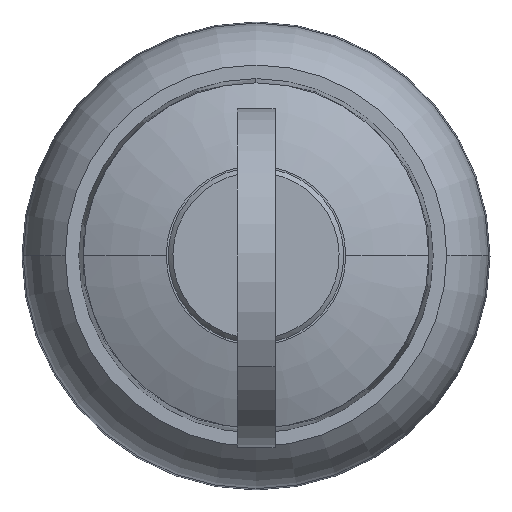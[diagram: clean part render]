
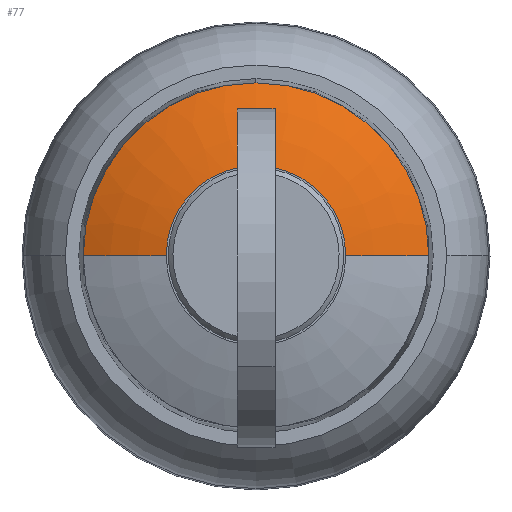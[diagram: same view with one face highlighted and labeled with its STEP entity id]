
A CAD part, top view. The second image highlights one B-rep face of the part: STEP entity #77.
In plain terms, the highlighted toroidal (fillet/blend) face has major radius 0.228 mm and minor radius 25 mm.
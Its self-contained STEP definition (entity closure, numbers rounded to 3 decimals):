
#77 = ADVANCED_FACE( '', ( #155 ), #156, .T. );
#155 = FACE_OUTER_BOUND( '', #316, .T. );
#156 = TOROIDAL_SURFACE( '', #317, 0.227, 25. );
#316 = EDGE_LOOP( '', ( #488, #489, #490, #491, #492, #493 ) );
#317 = AXIS2_PLACEMENT_3D( '', #494, #495, #496 );
#488 = ORIENTED_EDGE( '', *, *, #1074, .F. );
#489 = ORIENTED_EDGE( '', *, *, #1075, .T. );
#490 = ORIENTED_EDGE( '', *, *, #1076, .T. );
#491 = ORIENTED_EDGE( '', *, *, #1077, .F. );
#492 = ORIENTED_EDGE( '', *, *, #1078, .F. );
#493 = ORIENTED_EDGE( '', *, *, #1079, .F. );
#494 = CARTESIAN_POINT( '', ( 0., 0., 14.798 ) );
#495 = DIRECTION( '', ( 0., 0., 1. ) );
#496 = DIRECTION( '', ( 1., 0., 0. ) );
#1074 = EDGE_CURVE( '', #1265, #1266, #1267, .T. );
#1075 = EDGE_CURVE( '', #1265, #1268, #1269, .T. );
#1076 = EDGE_CURVE( '', #1268, #1270, #1271, .T. );
#1077 = EDGE_CURVE( '', #1272, #1270, #1273, .T. );
#1078 = EDGE_CURVE( '', #1274, #1272, #1275, .T. );
#1079 = EDGE_CURVE( '', #1266, #1274, #1276, .T. );
#1265 = VERTEX_POINT( '', #1573 );
#1266 = VERTEX_POINT( '', #1574 );
#1267 = CIRCLE( '', #1575, 25. );
#1268 = VERTEX_POINT( '', #1576 );
#1269 = CIRCLE( '', #1577, 10.962 );
#1270 = VERTEX_POINT( '', #1578 );
#1271 = CIRCLE( '', #1579, 10.962 );
#1272 = VERTEX_POINT( '', #1580 );
#1273 = CIRCLE( '', #1581, 25. );
#1274 = VERTEX_POINT( '', #1582 );
#1275 = CIRCLE( '', #1583, 5.7 );
#1276 = CIRCLE( '', #1584, 5.7 );
#1573 = CARTESIAN_POINT( '', ( 10.962, 0., 37.376 ) );
#1574 = CARTESIAN_POINT( '', ( 5.7, 0., 39.192 ) );
#1575 = AXIS2_PLACEMENT_3D( '', #2027, #2028, #2029 );
#1576 = CARTESIAN_POINT( '', ( 0., 10.962, 37.376 ) );
#1577 = AXIS2_PLACEMENT_3D( '', #2030, #2031, #2032 );
#1578 = CARTESIAN_POINT( '', ( -10.962, 0., 37.376 ) );
#1579 = AXIS2_PLACEMENT_3D( '', #2033, #2034, #2035 );
#1580 = CARTESIAN_POINT( '', ( -5.7, 0., 39.192 ) );
#1581 = AXIS2_PLACEMENT_3D( '', #2036, #2037, #2038 );
#1582 = CARTESIAN_POINT( '', ( 0., 5.7, 39.192 ) );
#1583 = AXIS2_PLACEMENT_3D( '', #2039, #2040, #2041 );
#1584 = AXIS2_PLACEMENT_3D( '', #2042, #2043, #2044 );
#2027 = CARTESIAN_POINT( '', ( 0.227, 0., 14.798 ) );
#2028 = DIRECTION( '', ( 0., -1., 0. ) );
#2029 = DIRECTION( '', ( 1., 0., 0. ) );
#2030 = CARTESIAN_POINT( '', ( 0., 0., 37.376 ) );
#2031 = DIRECTION( '', ( 0., 0., 1. ) );
#2032 = DIRECTION( '', ( 0., 1., 0. ) );
#2033 = CARTESIAN_POINT( '', ( 0., 0., 37.376 ) );
#2034 = DIRECTION( '', ( 0., 0., 1. ) );
#2035 = DIRECTION( '', ( 0., 1., 0. ) );
#2036 = CARTESIAN_POINT( '', ( -0.227, 0., 14.798 ) );
#2037 = DIRECTION( '', ( 0., -1., 0. ) );
#2038 = DIRECTION( '', ( -1., 0., 0. ) );
#2039 = CARTESIAN_POINT( '', ( 0., 0., 39.192 ) );
#2040 = DIRECTION( '', ( 0., 0., 1. ) );
#2041 = DIRECTION( '', ( 0., 1., 0. ) );
#2042 = CARTESIAN_POINT( '', ( 0., 0., 39.192 ) );
#2043 = DIRECTION( '', ( 0., 0., 1. ) );
#2044 = DIRECTION( '', ( 0., 1., 0. ) );
